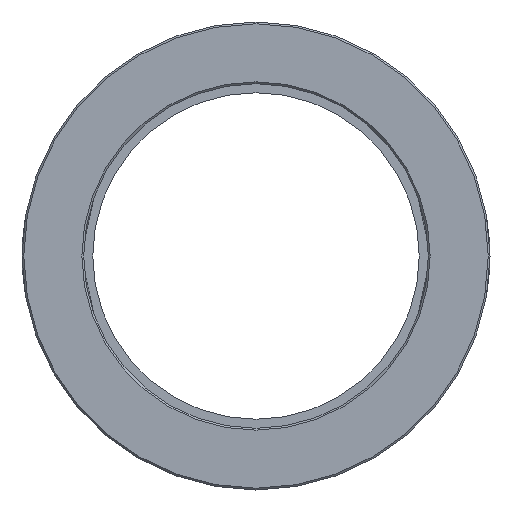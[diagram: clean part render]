
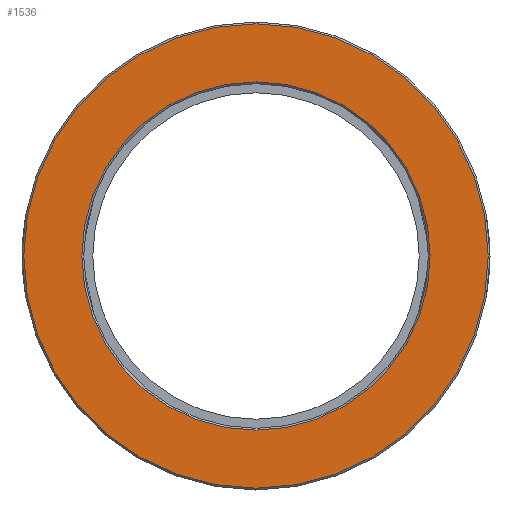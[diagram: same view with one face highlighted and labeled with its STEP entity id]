
A CAD part, left-side view. The second image highlights one B-rep face of the part: STEP entity #1536.
In plain terms, the highlighted planar face has unit normal (-1, 0, 0).
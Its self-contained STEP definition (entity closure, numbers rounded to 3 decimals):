
#114 = VERTEX_POINT ( 'NONE', #327 ) ;
#154 = CARTESIAN_POINT ( 'NONE',  ( 0., 0., 0. ) ) ;
#269 = AXIS2_PLACEMENT_3D ( 'NONE', #682, #948, #955 ) ;
#281 = DIRECTION ( 'NONE',  ( 0., 0., -1. ) ) ;
#308 = EDGE_LOOP ( 'NONE', ( #1151, #1120 ) ) ;
#310 = CARTESIAN_POINT ( 'NONE',  ( 0., 0., 0. ) ) ;
#327 = CARTESIAN_POINT ( 'NONE',  ( 0., 0., -64. ) ) ;
#374 = VERTEX_POINT ( 'NONE', #780 ) ;
#472 = CIRCLE ( 'NONE', #1456, 64. ) ;
#540 = AXIS2_PLACEMENT_3D ( 'NONE', #310, #1217, #1212 ) ;
#572 = CARTESIAN_POINT ( 'NONE',  ( 0., 0., 48. ) ) ;
#660 = EDGE_CURVE ( 'NONE', #374, #763, #789, .T. ) ;
#681 = EDGE_CURVE ( 'NONE', #697, #114, #739, .T. ) ;
#682 = CARTESIAN_POINT ( 'NONE',  ( 0., 47.5, 0. ) ) ;
#690 = CARTESIAN_POINT ( 'NONE',  ( 0., 0., 64. ) ) ;
#697 = VERTEX_POINT ( 'NONE', #690 ) ;
#701 = CARTESIAN_POINT ( 'NONE',  ( 0., 0., 0. ) ) ;
#702 = DIRECTION ( 'NONE',  ( 1., 0., 0. ) ) ;
#706 = DIRECTION ( 'NONE',  ( -1., 0., 0. ) ) ;
#739 = CIRCLE ( 'NONE', #1437, 64. ) ;
#763 = VERTEX_POINT ( 'NONE', #572 ) ;
#780 = CARTESIAN_POINT ( 'NONE',  ( 0., 0., -48. ) ) ;
#789 = CIRCLE ( 'NONE', #540, 48. ) ;
#816 = DIRECTION ( 'NONE',  ( 0., 0., -1. ) ) ;
#830 = PLANE ( 'NONE',  #269 ) ;
#831 = DIRECTION ( 'NONE',  ( 0., 0., -1. ) ) ;
#948 = DIRECTION ( 'NONE',  ( 1., 0., 0. ) ) ;
#955 = DIRECTION ( 'NONE',  ( 0., 0., -1. ) ) ;
#1040 = AXIS2_PLACEMENT_3D ( 'NONE', #1341, #702, #831 ) ;
#1076 = ORIENTED_EDGE ( 'NONE', *, *, #681, .T. ) ;
#1084 = EDGE_LOOP ( 'NONE', ( #1085, #1076 ) ) ;
#1085 = ORIENTED_EDGE ( 'NONE', *, *, #1208, .T. ) ;
#1104 = CIRCLE ( 'NONE', #1040, 48. ) ;
#1120 = ORIENTED_EDGE ( 'NONE', *, *, #660, .T. ) ;
#1151 = ORIENTED_EDGE ( 'NONE', *, *, #1414, .T. ) ;
#1186 = DIRECTION ( 'NONE',  ( -1., 0., 0. ) ) ;
#1208 = EDGE_CURVE ( 'NONE', #114, #697, #472, .T. ) ;
#1212 = DIRECTION ( 'NONE',  ( 0., 0., -1. ) ) ;
#1217 = DIRECTION ( 'NONE',  ( 1., 0., 0. ) ) ;
#1341 = CARTESIAN_POINT ( 'NONE',  ( 0., 0., 0. ) ) ;
#1353 = FACE_OUTER_BOUND ( 'NONE', #1084, .T. ) ;
#1378 = FACE_BOUND ( 'NONE', #308, .T. ) ;
#1414 = EDGE_CURVE ( 'NONE', #763, #374, #1104, .T. ) ;
#1437 = AXIS2_PLACEMENT_3D ( 'NONE', #701, #706, #816 ) ;
#1456 = AXIS2_PLACEMENT_3D ( 'NONE', #154, #1186, #281 ) ;
#1536 = ADVANCED_FACE ( 'NONE', ( #1378, #1353 ), #830, .F. ) ;
